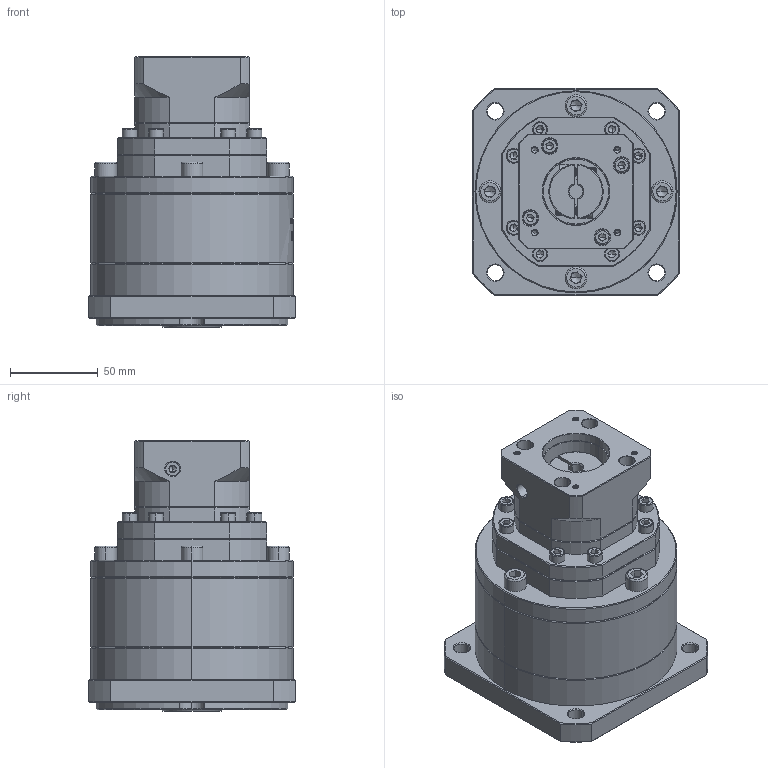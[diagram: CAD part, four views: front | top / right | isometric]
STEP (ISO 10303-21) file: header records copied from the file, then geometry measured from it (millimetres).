
FILE_DESCRIPTION (( 'STEP AP214' ), '1' );
FILE_NAME ('ZF120A-K25-L3-8-38.1-47.14X47.14-M4.step', '2023-03-07T15:57:40', ( '' ), ( 'Microsoft' ), 'SwSTEP 2.0', 'SolidWorks 2016', '' );
FILE_SCHEMA (( 'AUTOMOTIVE_DESIGN' ));
Length unit declared in the file: millimetre
Products named in the file (1): ZF120A-K25-L3-8-38.1-47.14X47.14-M4
Bounding box: 118 x 118 x 154 mm (x, y, z)
Volume: 1171158.4 mm3; surface area: 113451.1 mm2
Topology: 7 solids, 7 shells, 2017 faces, 5306 edges, 3392 vertices
Faces by surface type: plane 995, cylinder 378, bspline 328, cone 294, torus 22
Entity records: 101434 total; most frequent: CARTESIAN_POINT 32963, ORIENTED_EDGE 10508, DIRECTION 8360, EDGE_CURVE 5254, VERTEX_POINT 3392, VECTOR 2910, LINE 2910, AXIS2_PLACEMENT_3D 2725
